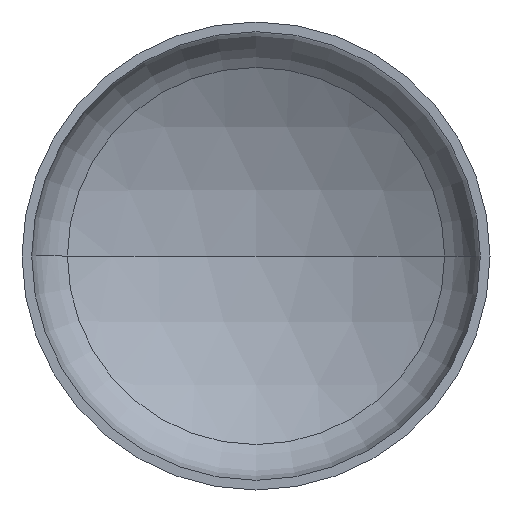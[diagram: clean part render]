
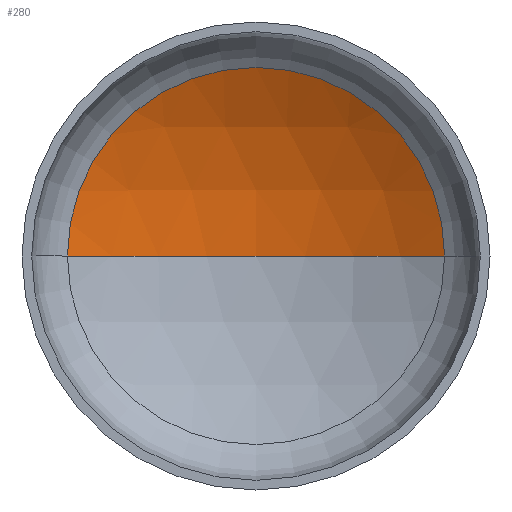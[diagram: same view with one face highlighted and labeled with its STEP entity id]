
A CAD part, front view. The second image highlights one B-rep face of the part: STEP entity #280.
In plain terms, the highlighted spherical face has radius 2080 mm.
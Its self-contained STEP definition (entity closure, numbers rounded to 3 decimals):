
#13 = EDGE_LOOP ( 'NONE', ( #97, #88, #43 ) ) ;
#14 = VERTEX_POINT ( 'NONE', #279 ) ;
#22 = AXIS2_PLACEMENT_3D ( 'NONE', #366, #217, #314 ) ;
#26 = AXIS2_PLACEMENT_3D ( 'NONE', #285, #157, #159 ) ;
#38 = AXIS2_PLACEMENT_3D ( 'NONE', #254, #313, #239 ) ;
#43 = ORIENTED_EDGE ( 'NONE', *, *, #352, .T. ) ;
#56 = VERTEX_POINT ( 'NONE', #230 ) ;
#68 = VERTEX_POINT ( 'NONE', #244 ) ;
#88 = ORIENTED_EDGE ( 'NONE', *, *, #354, .T. ) ;
#97 = ORIENTED_EDGE ( 'NONE', *, *, #387, .F. ) ;
#137 = CIRCLE ( 'NONE', #22, 2080. ) ;
#157 = DIRECTION ( 'NONE',  ( 0., -1., 0. ) ) ;
#159 = DIRECTION ( 'NONE',  ( 1., 0., 0. ) ) ;
#195 = CIRCLE ( 'NONE', #26, 1047.429 ) ;
#202 = DIRECTION ( 'NONE',  ( 1., 0., 0. ) ) ;
#217 = DIRECTION ( 'NONE',  ( 0., 0., -1. ) ) ;
#230 = CARTESIAN_POINT ( 'NONE',  ( 1047.429, 465.581, 0. ) ) ;
#238 = CIRCLE ( 'NONE', #308, 2080. ) ;
#239 = DIRECTION ( 'NONE',  ( -1., 0., 0. ) ) ;
#244 = CARTESIAN_POINT ( 'NONE',  ( 0., 748.558, 0. ) ) ;
#246 = CARTESIAN_POINT ( 'NONE',  ( 0., -1331.442, 0. ) ) ;
#254 = CARTESIAN_POINT ( 'NONE',  ( 0., -1331.442, 0. ) ) ;
#270 = SPHERICAL_SURFACE ( 'NONE', #38, 2080. ) ;
#276 = FACE_OUTER_BOUND ( 'NONE', #13, .T. ) ;
#279 = CARTESIAN_POINT ( 'NONE',  ( -1047.429, 465.581, 0. ) ) ;
#280 = ADVANCED_FACE ( 'NONE', ( #276 ), #270, .F. ) ;
#285 = CARTESIAN_POINT ( 'NONE',  ( 0., 465.581, 0. ) ) ;
#308 = AXIS2_PLACEMENT_3D ( 'NONE', #246, #353, #202 ) ;
#313 = DIRECTION ( 'NONE',  ( 0., 0., -1. ) ) ;
#314 = DIRECTION ( 'NONE',  ( -1., 0., 0. ) ) ;
#352 = EDGE_CURVE ( 'NONE', #56, #14, #195, .T. ) ;
#353 = DIRECTION ( 'NONE',  ( 0., 0., 1. ) ) ;
#354 = EDGE_CURVE ( 'NONE', #68, #56, #137, .T. ) ;
#366 = CARTESIAN_POINT ( 'NONE',  ( 0., -1331.442, 0. ) ) ;
#387 = EDGE_CURVE ( 'NONE', #68, #14, #238, .T. ) ;
